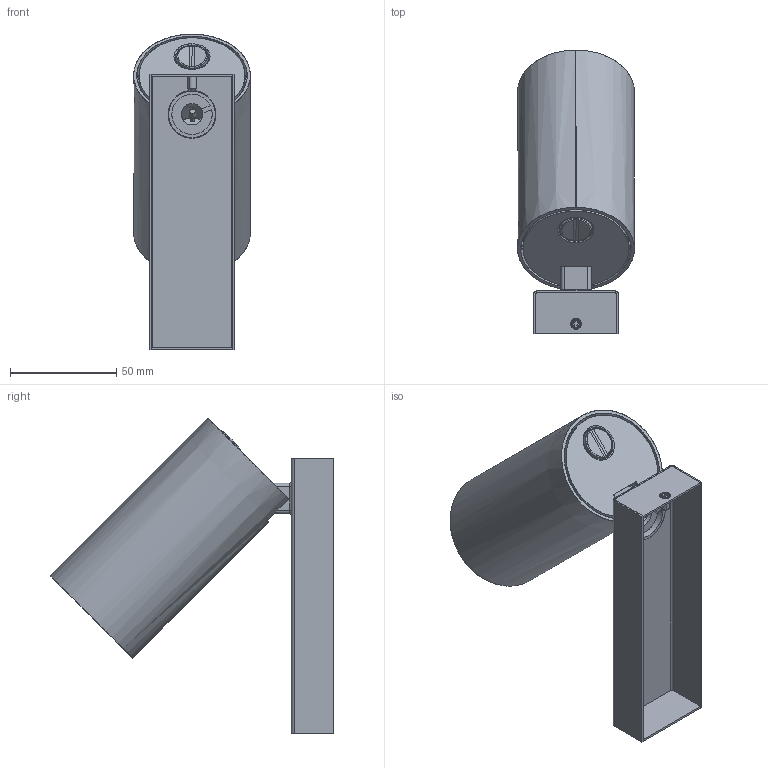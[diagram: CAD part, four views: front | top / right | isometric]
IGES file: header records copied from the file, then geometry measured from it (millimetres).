
Start section: SolidWorks IGES file using analytic representation for surfaces
Global section: file name: Z:\Modele 3D_WWW\_KOLEKCJE_WWW\MONO\MONO-BELKA\MONO-I-KINKIET-7808-7840\MONO-I-KINKIET-7808-7840.IGS; native system: SolidWorks 2021; preprocessor: SolidWorks 2021; author: gabriela.tworek; date: 210722.072420; units: millimetre
Bounding box: 55 x 133.58 x 148.83 mm (x, y, z)
Surface area: 74801.9 mm2 (no closed solid volume)
Topology: 0 solids, 0 shells, 558 faces, 5764 edges, 5760 vertices
Faces by surface type: bspline 388, revolution 170
